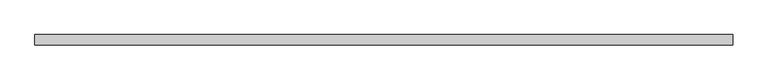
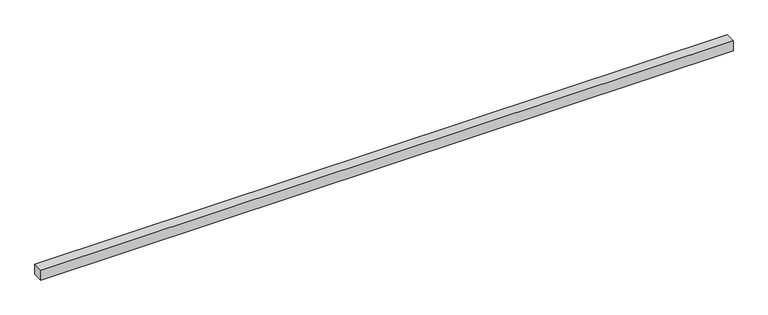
"""IFC4 building model written with IfcOpenShell, lengths in millimetres: proxy geometry, ▲GM_ОКЛ_Плита : ДваФ."""

from ifc_helpers import new_model, si_unit, origin, origin_with_axes, place, context, project, spatial, polyline, outline, extrude, source, transform, mapped, element, save


def generic_models_7c58edcd(model_context):
    return source(origin(), model_context, "Body", "SweptSolid", [
        extrude(outline(polyline([(2308.525, 35.0), (2308.525, -35.0), (-2308.525, -35.0), (-2308.525, 35.0), (2308.525, 35.0)])), origin_with_axes(), (0.0, 0.0, 1.0), 70.0),
    ])


if __name__ == "__main__":
    model = new_model("IFC4")
    model_context = context("Model", 3, world=origin())
    ifc_project = project(units=[si_unit("LENGTHUNIT", "METRE", prefix="MILLI")], contexts=[model_context])
    site = spatial("IfcSite", under=ifc_project)
    building = spatial("IfcBuilding", under=site)
    placement = place(None, origin())
    generic_models_shape = generic_models_7c58edcd(model_context)
    element("IfcBuildingElementProxy", 1, Name="▲GM_ОКЛ_Плита : ДваФ", ObjectType="▲GM_ОКЛ_Плита : ДваФ", at=placement, inside=building, context=model_context, shape_type="MappedRepresentation", body=[
        mapped(generic_models_shape, transform((0.0, 0.0, 0.0), x_axis=(1.0, 0.0, 0.0), y_axis=(0.0, 1.0, 0.0), z_axis=(0.0, 0.0, 1.0))),
    ])
    save(model, "model.ifc")
